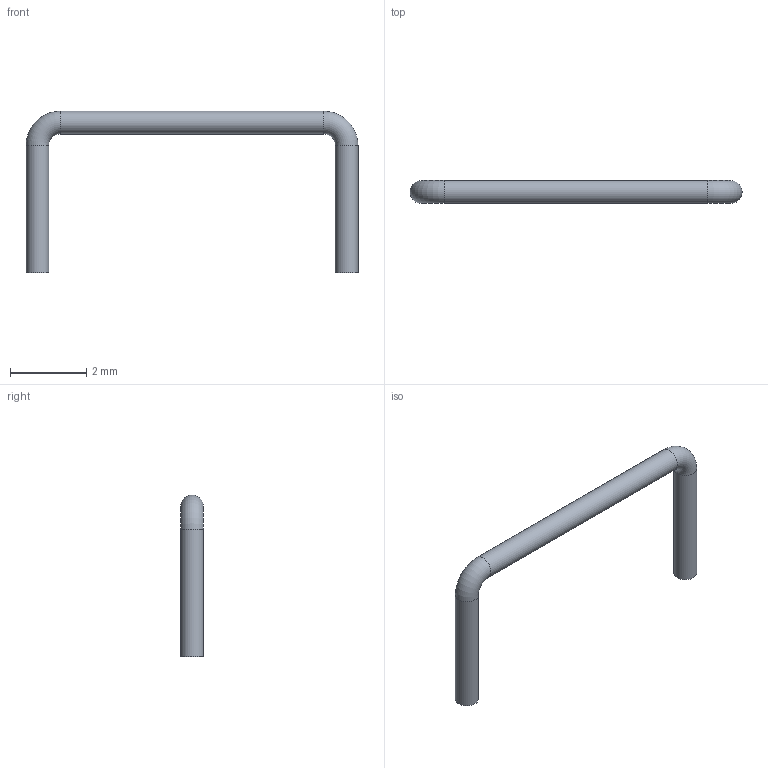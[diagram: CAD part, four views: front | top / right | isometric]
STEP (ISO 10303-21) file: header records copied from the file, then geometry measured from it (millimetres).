
FILE_DESCRIPTION(('FreeCAD Model'),'2;1');
FILE_NAME('Open CASCADE Shape Model','2022-03-17T13:25:30',('Author'),( ''),'Open CASCADE STEP processor 7.5','FreeCAD','Unknown');
FILE_SCHEMA(('AUTOMOTIVE_DESIGN { 1 0 10303 214 1 1 1 1 }'));
Length unit declared in the file: millimetre
Products named in the file (1): Wire
Bounding box: 8.73 x 0.6 x 4.25 mm (x, y, z)
Volume: 4.4 mm3; surface area: 29.8 mm2
Topology: 1 solids, 1 shells, 7 faces, 11 edges, 6 vertices
Faces by surface type: cylinder 3, plane 2, torus 2
Full cylindrical faces by diameter (mm): 0.6 x3
Entity records: 183 total; most frequent: DIRECTION 35, CARTESIAN_POINT 25, ORIENTED_EDGE 22, AXIS2_PLACEMENT_3D 16, EDGE_CURVE 11, CIRCLE 8, ADVANCED_FACE 7, FACE_BOUND 7
